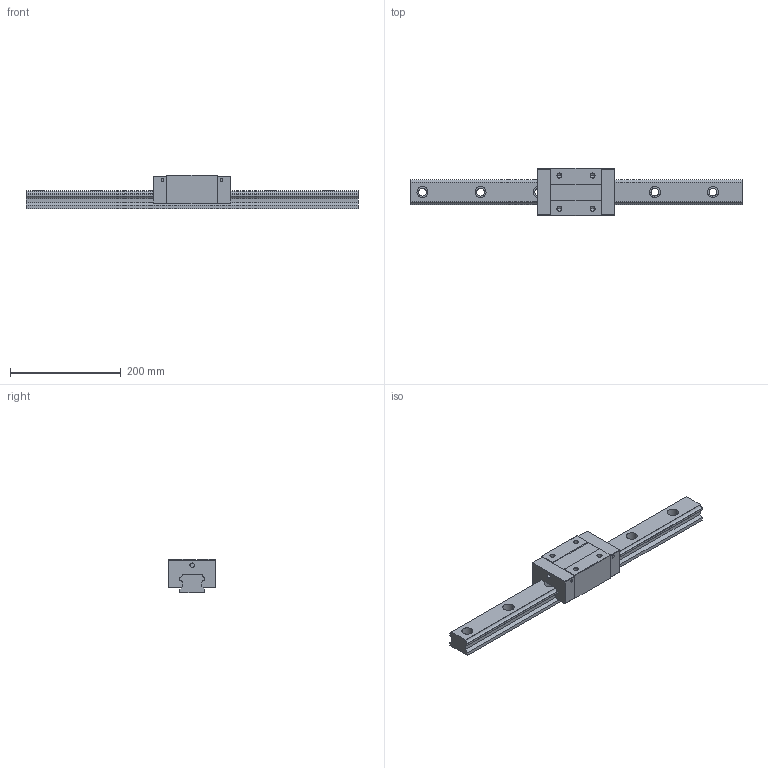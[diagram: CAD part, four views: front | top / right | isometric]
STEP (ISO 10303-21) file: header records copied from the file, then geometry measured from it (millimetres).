
FILE_DESCRIPTION (( 'STEP AP203' ), '1' );
FILE_NAME ('TRS45VN-SZ.STEP', '2024-07-11T08:51:45', ( '' ), ( '' ), 'SwSTEP 2.0', 'SolidWorks 2022', '' );
FILE_SCHEMA (( 'CONFIG_CONTROL_DESIGN' ));
Length unit declared in the file: millimetre
Products named in the file (1): TRS45VN-SZ
Bounding box: 600 x 85.5 x 60 mm (x, y, z)
Volume: 1182692.6 mm3; surface area: 161774.8 mm2
Topology: 2 solids, 2 shells, 180 faces, 472 edges, 304 vertices
Faces by surface type: plane 84, cylinder 80, cone 16
Entity records: 5607 total; most frequent: DIRECTION 994, CARTESIAN_POINT 949, ORIENTED_EDGE 928, EDGE_CURVE 464, AXIS2_PLACEMENT_3D 349, VERTEX_POINT 304, LINE 296, VECTOR 296
